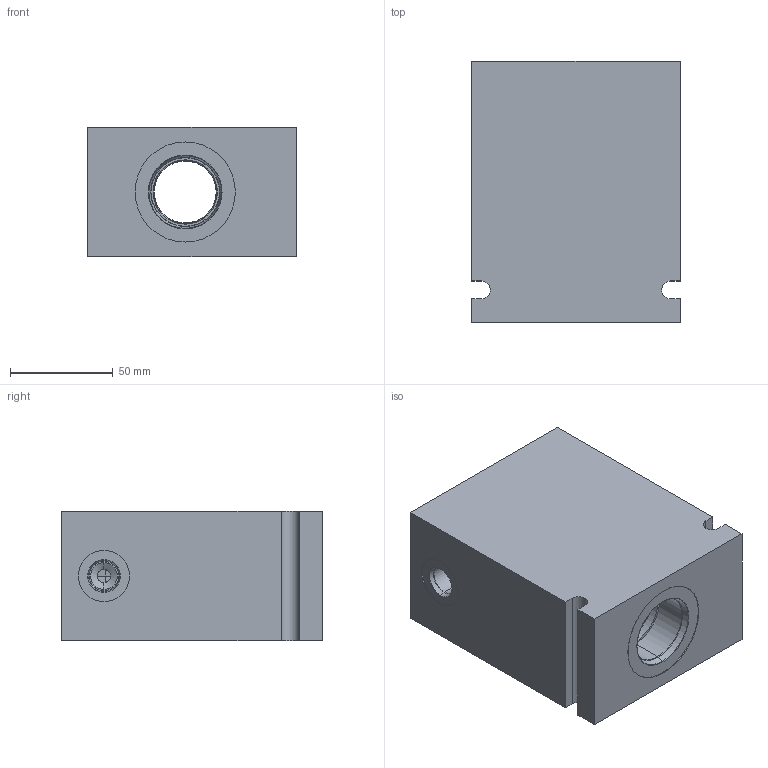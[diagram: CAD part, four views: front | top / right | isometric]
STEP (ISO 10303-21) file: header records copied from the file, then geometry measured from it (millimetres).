
FILE_DESCRIPTION((''),'2;1');
FILE_NAME('7023130','2007-11-12T',('KC2'),(''),'PRO/ENGINEER BY PARAMETRIC TECHNOLOGY CORPORATION, 2005310','PRO/ENGINEER BY PARAMETRIC TECHNOLOGY CORPORATION, 2005310','');
FILE_SCHEMA(('CONFIG_CONTROL_DESIGN'));
Length unit declared in the file: inch
Products named in the file (1): 7023130
Bounding box: 101.6 x 127 x 62.99 mm (x, y, z)
Volume: 645860.8 mm3; surface area: 71623.7 mm2
Topology: 1 solids, 1 shells, 96 faces, 215 edges, 126 vertices
Faces by surface type: cylinder 38, cone 26, plane 20, torus 12
Entity records: 2761 total; most frequent: DIRECTION 509, CARTESIAN_POINT 509, ORIENTED_EDGE 430, EDGE_CURVE 215, AXIS2_PLACEMENT_3D 206, VERTEX_POINT 126, CIRCLE 110, EDGE_LOOP 107
